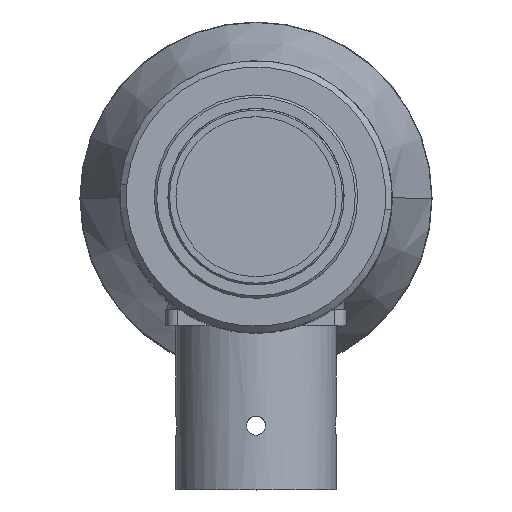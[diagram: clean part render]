
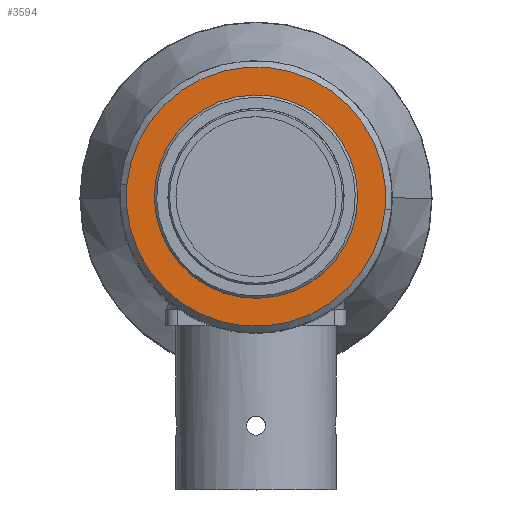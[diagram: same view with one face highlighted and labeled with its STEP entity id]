
A CAD part, top view. The second image highlights one B-rep face of the part: STEP entity #3594.
In plain terms, the highlighted planar face has unit normal (0, 0, 1).
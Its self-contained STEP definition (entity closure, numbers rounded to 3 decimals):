
#7 = CARTESIAN_POINT ( 'NONE',  ( 0., 0., 89.821 ) ) ;
#319 = FACE_OUTER_BOUND ( 'NONE', #4273, .T. ) ;
#461 = VERTEX_POINT ( 'NONE', #1985 ) ;
#555 = ORIENTED_EDGE ( 'NONE', *, *, #2074, .T. ) ;
#926 = EDGE_CURVE ( 'NONE', #4032, #461, #2739, .T. ) ;
#1125 = AXIS2_PLACEMENT_3D ( 'NONE', #3780, #2641, #3763 ) ;
#1207 = AXIS2_PLACEMENT_3D ( 'NONE', #2215, #1814, #1867 ) ;
#1248 = CARTESIAN_POINT ( 'NONE',  ( 0., 0., 89.821 ) ) ;
#1266 = DIRECTION ( 'NONE',  ( -0.996, 0.094, 0. ) ) ;
#1437 = CIRCLE ( 'NONE', #1125, 16.2 ) ;
#1457 = DIRECTION ( 'NONE',  ( 0., 0., 1. ) ) ;
#1599 = DIRECTION ( 'NONE',  ( 0., 0., 1. ) ) ;
#1623 = EDGE_CURVE ( 'NONE', #3653, #2350, #1437, .T. ) ;
#1814 = DIRECTION ( 'NONE',  ( 0., 0., -1. ) ) ;
#1817 = CIRCLE ( 'NONE', #4303, 16.2 ) ;
#1839 = EDGE_CURVE ( 'NONE', #461, #4032, #2490, .T. ) ;
#1867 = DIRECTION ( 'NONE',  ( -0.996, 0.094, 0. ) ) ;
#1894 = CARTESIAN_POINT ( 'NONE',  ( 0., 0., 89.821 ) ) ;
#1911 = DIRECTION ( 'NONE',  ( -1., 0., 0. ) ) ;
#1985 = CARTESIAN_POINT ( 'NONE',  ( -9.918, 7.933, 89.821 ) ) ;
#2074 = EDGE_CURVE ( 'NONE', #2350, #3653, #1817, .T. ) ;
#2215 = CARTESIAN_POINT ( 'NONE',  ( 1.171, 12.345, 89.821 ) ) ;
#2350 = VERTEX_POINT ( 'NONE', #3814 ) ;
#2436 = ORIENTED_EDGE ( 'NONE', *, *, #1623, .T. ) ;
#2490 = CIRCLE ( 'NONE', #3649, 12.7 ) ;
#2641 = DIRECTION ( 'NONE',  ( 0., 0., 1. ) ) ;
#2739 = CIRCLE ( 'NONE', #4738, 12.7 ) ;
#2973 = CARTESIAN_POINT ( 'NONE',  ( 16.128, -1.53, 89.821 ) ) ;
#3183 = EDGE_LOOP ( 'NONE', ( #3614, #4215 ) ) ;
#3401 = DIRECTION ( 'NONE',  ( -1., 0., 0. ) ) ;
#3420 = FACE_BOUND ( 'NONE', #3183, .T. ) ;
#3594 = ADVANCED_FACE ( 'NONE', ( #3420, #319 ), #4165, .F. ) ;
#3614 = ORIENTED_EDGE ( 'NONE', *, *, #926, .F. ) ;
#3649 = AXIS2_PLACEMENT_3D ( 'NONE', #1894, #1457, #3401 ) ;
#3653 = VERTEX_POINT ( 'NONE', #2973 ) ;
#3763 = DIRECTION ( 'NONE',  ( -0.996, 0.094, 0. ) ) ;
#3780 = CARTESIAN_POINT ( 'NONE',  ( 0., 0., 89.821 ) ) ;
#3814 = CARTESIAN_POINT ( 'NONE',  ( -16.128, 1.53, 89.821 ) ) ;
#3877 = DIRECTION ( 'NONE',  ( 0., 0., 1. ) ) ;
#4032 = VERTEX_POINT ( 'NONE', #4058 ) ;
#4058 = CARTESIAN_POINT ( 'NONE',  ( 9.918, -7.933, 89.821 ) ) ;
#4165 = PLANE ( 'NONE',  #1207 ) ;
#4215 = ORIENTED_EDGE ( 'NONE', *, *, #1839, .F. ) ;
#4273 = EDGE_LOOP ( 'NONE', ( #555, #2436 ) ) ;
#4303 = AXIS2_PLACEMENT_3D ( 'NONE', #1248, #1599, #1266 ) ;
#4738 = AXIS2_PLACEMENT_3D ( 'NONE', #7, #3877, #1911 ) ;
